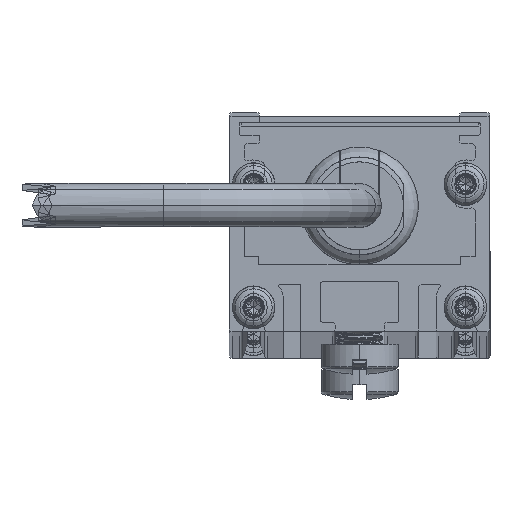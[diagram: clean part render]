
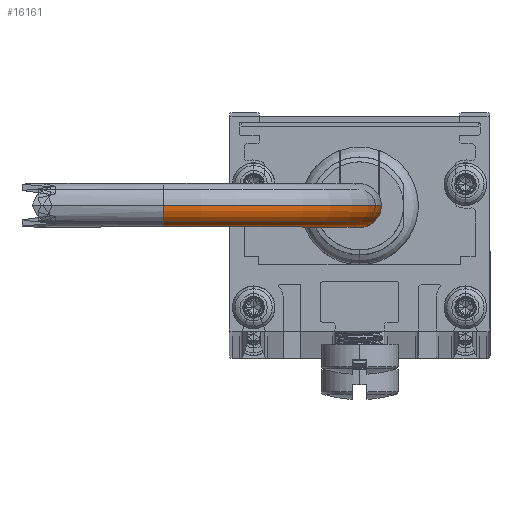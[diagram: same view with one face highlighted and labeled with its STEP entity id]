
A CAD part, top view. The second image highlights one B-rep face of the part: STEP entity #16161.
In plain terms, the highlighted toroidal (fillet/blend) face has major radius 25.4 mm and minor radius 2.845 mm.
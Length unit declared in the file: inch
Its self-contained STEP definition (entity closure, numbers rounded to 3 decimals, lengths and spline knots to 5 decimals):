
#767 = CARTESIAN_POINT ( 'NONE',  ( 1., 0., -1. ) ) ;
#1077 = DIRECTION ( 'NONE',  ( 0., -1., 0. ) ) ;
#1674 = ORIENTED_EDGE ( 'NONE', *, *, #7773, .F. ) ;
#2311 = CARTESIAN_POINT ( 'NONE',  ( 1., 0., -1. ) ) ;
#2576 = DIRECTION ( 'NONE',  ( 0., 0., -1. ) ) ;
#3016 = CARTESIAN_POINT ( 'NONE',  ( 1., 0., -1.888 ) ) ;
#3076 = AXIS2_PLACEMENT_3D ( 'NONE', #9309, #6395, #3734 ) ;
#3303 = AXIS2_PLACEMENT_3D ( 'NONE', #11170, #18462, #18638 ) ;
#3323 = EDGE_CURVE ( 'NONE', #14381, #6442, #3974, .T. ) ;
#3513 = CARTESIAN_POINT ( 'NONE',  ( -0.112, 0., -1. ) ) ;
#3577 = VERTEX_POINT ( 'NONE', #3016 ) ;
#3734 = DIRECTION ( 'NONE',  ( 1., 0., 0. ) ) ;
#3974 = CIRCLE ( 'NONE', #14985, 1.112 ) ;
#4950 = AXIS2_PLACEMENT_3D ( 'NONE', #9727, #1077, #2576 ) ;
#4972 = DIRECTION ( 'NONE',  ( 0., -1., 0. ) ) ;
#5004 = ORIENTED_EDGE ( 'NONE', *, *, #8575, .F. ) ;
#5464 = EDGE_LOOP ( 'NONE', ( #5004, #6248, #9578, #1674 ) ) ;
#6128 = FACE_OUTER_BOUND ( 'NONE', #5464, .T. ) ;
#6248 = ORIENTED_EDGE ( 'NONE', *, *, #3323, .T. ) ;
#6395 = DIRECTION ( 'NONE',  ( 0., 0., 1. ) ) ;
#6442 = VERTEX_POINT ( 'NONE', #16282 ) ;
#6968 = CIRCLE ( 'NONE', #3076, 0.112 ) ;
#7773 = EDGE_CURVE ( 'NONE', #10596, #3577, #12208, .T. ) ;
#8274 = CIRCLE ( 'NONE', #3303, 0.112 ) ;
#8575 = EDGE_CURVE ( 'NONE', #14381, #10596, #6968, .T. ) ;
#9309 = CARTESIAN_POINT ( 'NONE',  ( 0., 0., -1. ) ) ;
#9578 = ORIENTED_EDGE ( 'NONE', *, *, #9703, .T. ) ;
#9703 = EDGE_CURVE ( 'NONE', #6442, #3577, #8274, .T. ) ;
#9727 = CARTESIAN_POINT ( 'NONE',  ( 1., 0., -1. ) ) ;
#10596 = VERTEX_POINT ( 'NONE', #18148 ) ;
#10897 = DIRECTION ( 'NONE',  ( 1., 0., 0. ) ) ;
#11170 = CARTESIAN_POINT ( 'NONE',  ( 1., 0., -2. ) ) ;
#11593 = TOROIDAL_SURFACE ( 'NONE', #4950, 1., 0.112 ) ;
#12208 = CIRCLE ( 'NONE', #16900, 0.888 ) ;
#14092 = DIRECTION ( 'NONE',  ( 1., 0., 0. ) ) ;
#14381 = VERTEX_POINT ( 'NONE', #3513 ) ;
#14985 = AXIS2_PLACEMENT_3D ( 'NONE', #2311, #16777, #14092 ) ;
#16161 = ADVANCED_FACE ( 'NONE', ( #6128 ), #11593, .T. ) ;
#16282 = CARTESIAN_POINT ( 'NONE',  ( 1., 0., -2.112 ) ) ;
#16777 = DIRECTION ( 'NONE',  ( 0., -1., 0. ) ) ;
#16900 = AXIS2_PLACEMENT_3D ( 'NONE', #767, #4972, #10897 ) ;
#18148 = CARTESIAN_POINT ( 'NONE',  ( 0.112, 0., -1. ) ) ;
#18462 = DIRECTION ( 'NONE',  ( -1., 0., 0. ) ) ;
#18638 = DIRECTION ( 'NONE',  ( 0., 0., 1. ) ) ;
